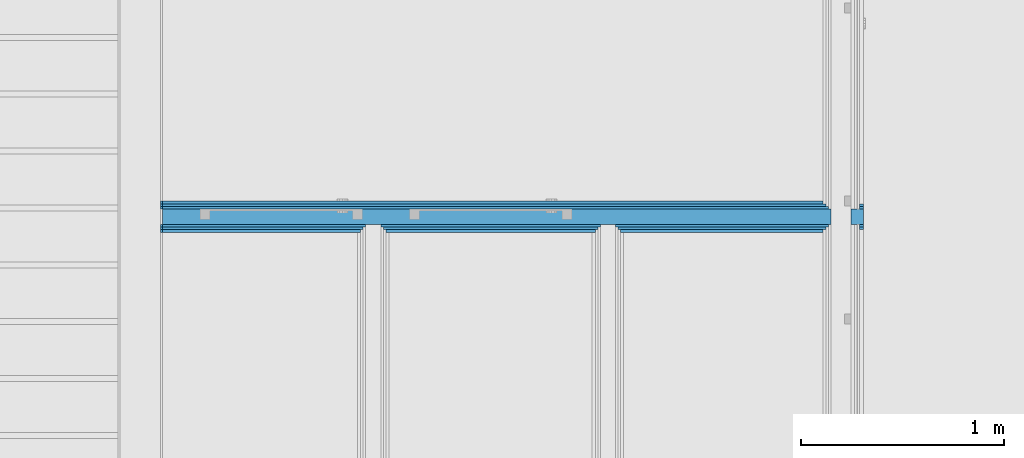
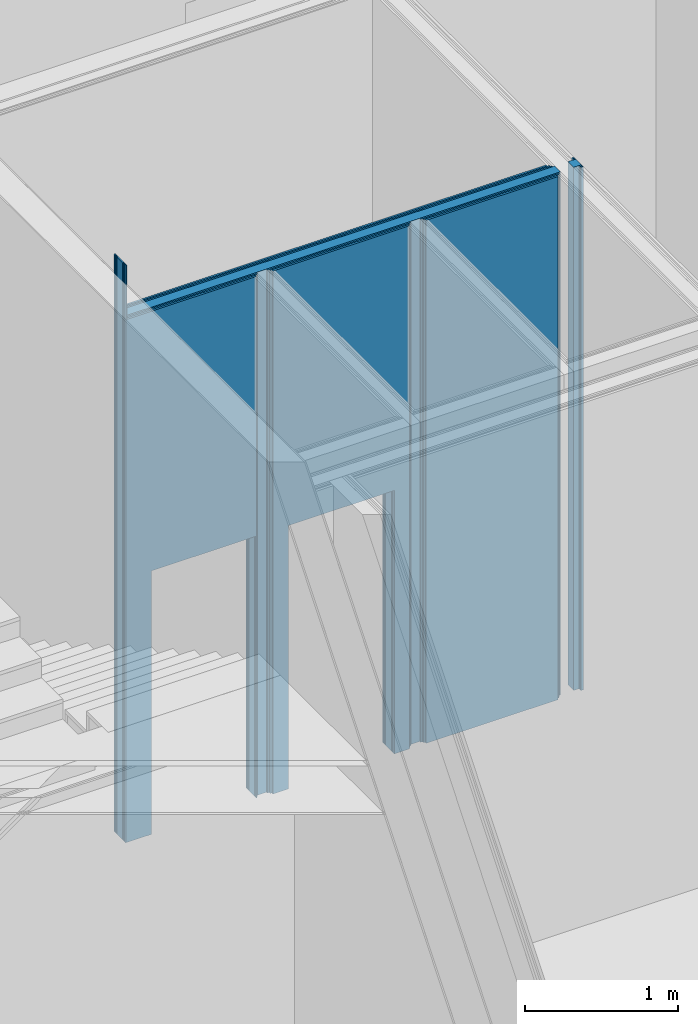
# One storey, part 111 of 260: 7 building element parts, 2 openings, 1 element without a shape of its own.
"""IFC2X3 building model written with IfcOpenShell, lengths in millimetres."""

from ifc_helpers import new_model, entity, si_unit, converted_unit, derived_unit, money_unit, direction, frame, origin_with_axes, place, context, subcontext, project, spatial, faceted_brep, material, type_object, element, aggregate, save


model = new_model("IFC2X3")

# Units and contexts
model_context = context("Model", 3, precision=0.01, world=origin_with_axes(), true_north=direction((0.0, 1.0)))
body_context = subcontext(model_context, "Body", "Model", "MODEL_VIEW")
ifc_project = project(units=[si_unit("LENGTHUNIT", "METRE", prefix="MILLI"), si_unit("AREAUNIT", "SQUARE_METRE"), si_unit("VOLUMEUNIT", "CUBIC_METRE"), converted_unit("PLANEANGLEUNIT", "DEGREE", entity("IfcPlaneAngleMeasure", 0.0174532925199), si_unit("PLANEANGLEUNIT", "RADIAN"), dimensions=[0, 0, 0, 0, 0, 0, 0]), money_unit("EUR"), converted_unit("TIMEUNIT", "Year", entity("IfcTimeMeasure", 31556926.0), si_unit("TIMEUNIT", "SECOND"), dimensions=[0, 0, 1, 0, 0, 0, 0]), si_unit("MASSUNIT", "GRAM", prefix="KILO"), si_unit("THERMODYNAMICTEMPERATUREUNIT", "DEGREE_CELSIUS"), si_unit("LUMINOUSINTENSITYUNIT", "LUMEN"), si_unit("ENERGYUNIT", "JOULE", prefix="MEGA"), derived_unit("THERMALCONDUCTANCEUNIT", [(si_unit("POWERUNIT", "WATT"), 1), (si_unit("LENGTHUNIT", "METRE"), -1), (si_unit("THERMODYNAMICTEMPERATUREUNIT", "KELVIN"), -1)]), derived_unit("SPECIFICHEATCAPACITYUNIT", [(si_unit("ENERGYUNIT", "JOULE"), 1), (si_unit("MASSUNIT", "GRAM", prefix="KILO"), -1), (si_unit("THERMODYNAMICTEMPERATUREUNIT", "KELVIN"), -1)]), derived_unit("MASSDENSITYUNIT", [(si_unit("MASSUNIT", "GRAM", prefix="KILO"), 1), (si_unit("VOLUMEUNIT", "CUBIC_METRE"), -1)])], contexts=[model_context])

# Site, building, storey
site_placement = place(None, origin_with_axes())
site = spatial("IfcSite", under=ifc_project, at=site_placement, Name="Kolde pst 67a", CompositionType="ELEMENT")
building_placement = place(site_placement, origin_with_axes())
building = spatial("IfcBuilding", under=site, at=building_placement, Name="Riigigümnaasium", CompositionType="ELEMENT")
storey_placement = place(building_placement, origin_with_axes())
storey = spatial("IfcBuildingStorey", under=building, at=storey_placement, Name="1. korrus", CompositionType="ELEMENT", Elevation=0.0)

# Wall, openings, building element parts
wall_type = type_object("IfcWallType", Name="SS-MK-7,5/1_plaaditud 155", PredefinedType="NOTDEFINED")
wall_placement = place(storey_placement, frame((6699.99873186, 54114.0154098, 0.0), z_axis=(0.0, 0.0, 1.0), x_axis=(-1.0, 0.0, 0.0)))
wall = element("IfcWall", 1, at=wall_placement, inside=storey, type_object=wall_type, Name="Sisesein")
opening_1_placement = place(wall_placement, frame((2865.53333333, 0.0, 0.0), z_axis=(0.0, 0.0, 1.0), x_axis=(1.0, 0.0, 0.0)))
element("IfcOpeningElement", 2, at=opening_1_placement, cuts=wall, Name="Siseuks", context=body_context, shape_type="Brep", body=[
    faceted_brep([(400.0, -310.0, 2100.0), (400.0, -310.0, 0.0), (400.0, 155.0, 0.0), (400.0, 155.0, 2100.0), (-400.0, -310.0, 2100.0), (-400.0, -310.0, 0.0), (-400.0, 155.0, 0.0), (-400.0, 155.0, 2100.0)], [[[0, 1, 2, 3]], [[0, 4, 5, 1]], [[1, 5, 6, 2]], [[3, 2, 6, 7]], [[4, 0, 3, 7]], [[5, 4, 7, 6]]]),
])
opening_2_placement = place(wall_placement, frame((1834.92914531, 0.0, 0.0), z_axis=(0.0, 0.0, 1.0), x_axis=(1.0, 0.0, 0.0)))
element("IfcOpeningElement", 3, at=opening_2_placement, cuts=wall, Name="Siseuks", context=body_context, shape_type="Brep", body=[
    faceted_brep([(400.0, -310.0, 2100.0), (400.0, -310.0, 0.0), (400.0, 155.0, 0.0), (400.0, 155.0, 2100.0), (-400.0, -310.0, 2100.0), (-400.0, -310.0, 0.0), (-400.0, 155.0, 0.0), (-400.0, 155.0, 2100.0)], [[[0, 1, 2, 3]], [[0, 4, 5, 1]], [[1, 5, 6, 2]], [[3, 2, 6, 7]], [[4, 0, 3, 7]], [[5, 4, 7, 6]]]),
])
ifc_material_1 = material(Name="_VIIMISTLUSKIHT - viimistlus vastavalt SA osale")
building_element_part_1_placement = place(wall_placement, origin_with_axes())
building_element_part_1 = element("IfcBuildingElementPart", 4, at=building_element_part_1_placement, material=ifc_material_1, Name="_VIIMISTLUSKIHT - viimistlus vastavalt SA osale", context=body_context, shape_type="Brep", body=[
    faceted_brep([(1195.06666667, -15.0, 4170.0), (200.0, -15.0, 4170.0), (200.0, -15.0, 0.0), (1195.06666667, -15.0, 0.0), (200.0, 0.0, 4170.0), (1195.06666667, 0.0, 4170.0), (200.0, 0.0, 0.0), (1195.06666667, 0.0, 0.0)], [[[0, 1, 2, 3]], [[4, 1, 0, 5]], [[1, 4, 6, 2]], [[3, 2, 6, 7]], [[5, 0, 3, 7]], [[4, 5, 7, 6]]]),
    faceted_brep([(2234.92914531, -15.0, 2100.0), (2234.92914531, -15.0, 0.0), (2350.53333333, -15.0, 0.0), (2350.53333333, -15.0, 4170.0), (1320.06666667, -15.0, 4170.0), (1320.06666667, -15.0, 0.0), (1434.92914531, -15.0, 0.0), (1434.92914531, -15.0, 2100.0), (2234.92914531, 0.0, 2100.0), (2234.92914531, 0.0, 0.0), (2350.53333333, 0.0, 0.0), (2350.53333333, 0.0, 4170.0), (1320.06666667, 0.0, 4170.0), (1320.06666667, 0.0, 0.0), (1434.92914531, 0.0, 0.0), (1434.92914531, 0.0, 2100.0)], [[[0, 1, 2, 3, 4, 5, 6, 7]], [[1, 0, 8, 9]], [[1, 9, 10, 2]], [[3, 2, 10, 11]], [[4, 3, 11, 12]], [[12, 13, 5, 4]], [[14, 6, 5, 13]], [[7, 6, 14, 15]], [[0, 7, 15, 8]], [[15, 14, 13, 12, 11, 10, 9, 8]]]),
    faceted_brep([(2475.53333333, 0.0, 2100.0), (2475.53333333, -15.0, 2100.0), (2475.53333333, -15.0, 4170.0), (2475.53333333, 0.0, 4170.0), (3265.53333333, -15.0, 2100.0), (3265.53333333, 0.0, 2100.0), (3265.53333333, -15.0, 0.0), (3460.05833606, -15.0, 0.0), (3460.05833606, -15.0, 4600.0), (3450.05831118, -15.0, 4600.0), (3450.05831118, -15.0, 4170.0), (3450.05831119, 0.0, 4170.0), (3450.05831119, 0.0, 4600.0), (3460.05833606, 0.0, 4600.0), (3460.05833606, 0.0, 0.0), (3265.53333333, 0.0, 0.0)], [[[0, 1, 2, 3]], [[4, 1, 0, 5]], [[4, 6, 7, 8, 9, 10, 2, 1]], [[2, 10, 11, 3]], [[5, 0, 3, 11, 12, 13, 14, 15]], [[6, 4, 5, 15]], [[6, 15, 14, 7]], [[8, 7, 14, 13]], [[9, 8, 13, 12]], [[10, 9, 12, 11]]]),
])
ifc_material_2 = material(Name="_PLAATMATERJAL - kipsplaat veekindel")
building_element_part_2_placement = place(wall_placement, origin_with_axes())
building_element_part_2 = element("IfcBuildingElementPart", 5, at=building_element_part_2_placement, material=ifc_material_2, Name="_PLAATMATERJAL - kipsplaat veekindel", context=body_context, shape_type="Brep", body=[
    faceted_brep([(1207.56666667, -27.5, 4170.0), (185.0, -27.5, 4170.0), (185.0, -27.5, 0.0), (1207.56666667, -27.5, 0.0), (185.0, -15.0, 4170.0), (1207.56666667, -15.0, 4170.0), (185.0, -15.0, 0.0), (1207.56666667, -15.0, 0.0)], [[[0, 1, 2, 3]], [[4, 1, 0, 5]], [[1, 4, 6, 2]], [[3, 2, 6, 7]], [[5, 0, 3, 7]], [[4, 5, 7, 6]]]),
    faceted_brep([(2234.92914531, -27.5, 2100.0), (2234.92914531, -27.5, 0.0), (2363.03333333, -27.5, 0.0), (2363.03333333, -27.5, 4170.0), (1307.56666667, -27.5, 4170.0), (1307.56666667, -27.5, 0.0), (1434.92914531, -27.5, 0.0), (1434.92914531, -27.5, 2100.0), (2234.92914531, -15.0, 2100.0), (2234.92914531, -15.0, 0.0), (2363.03333333, -15.0, 0.0), (2363.03333333, -15.0, 4170.0), (1307.56666667, -15.0, 4170.0), (1307.56666667, -15.0, 0.0), (1434.92914531, -15.0, 0.0), (1434.92914531, -15.0, 2100.0)], [[[0, 1, 2, 3, 4, 5, 6, 7]], [[1, 0, 8, 9]], [[1, 9, 10, 2]], [[3, 2, 10, 11]], [[4, 3, 11, 12]], [[12, 13, 5, 4]], [[14, 6, 5, 13]], [[7, 6, 14, 15]], [[0, 7, 15, 8]], [[15, 14, 13, 12, 11, 10, 9, 8]]]),
    faceted_brep([(3265.53333333, -27.5, 2100.0), (3265.53333333, -27.5, 0.0), (3460.05833606, -27.5, 0.0), (3460.05833606, -27.5, 4600.0), (3450.05831117, -27.5, 4600.0), (3450.05831117, -27.5, 4170.0), (2463.03333333, -27.5, 4170.0), (2463.03333333, -27.5, 0.0), (2465.53333333, -27.5, 0.0), (2465.53333333, -27.5, 2100.0), (3265.53333333, -15.0, 2100.0), (3265.53333333, -15.0, 0.0), (3460.05833606, -15.0, 0.0), (3460.05833606, -15.0, 4600.0), (3450.05831118, -15.0, 4600.0), (3450.05831118, -15.0, 4170.0), (2463.03333333, -15.0, 4170.0), (2463.03333333, -15.0, 0.0), (2465.53333333, -15.0, 0.0), (2465.53333333, -15.0, 2100.0)], [[[0, 1, 2, 3, 4, 5, 6, 7, 8, 9]], [[1, 0, 10, 11]], [[1, 11, 12, 2]], [[3, 2, 12, 13]], [[4, 3, 13, 14]], [[5, 4, 14, 15]], [[6, 5, 15, 16]], [[16, 17, 7, 6]], [[18, 8, 7, 17]], [[9, 8, 18, 19]], [[0, 9, 19, 10]], [[19, 18, 17, 16, 15, 14, 13, 12, 11, 10]]]),
    faceted_brep([(20.0, -27.5, 4170.0), (0.0, -27.5, 4170.0), (0.0, -27.5, 0.0), (20.0, -27.5, 0.0), (0.0, -15.0, 4170.0), (20.0, -15.0, 4170.0), (0.0, -15.0, 0.0), (20.0, -15.0, 0.0)], [[[0, 1, 2, 3]], [[4, 1, 0, 5]], [[1, 4, 6, 2]], [[6, 7, 3, 2]], [[5, 0, 3, 7]], [[4, 5, 7, 6]]]),
])
building_element_part_3_placement = place(wall_placement, origin_with_axes())
building_element_part_3 = element("IfcBuildingElementPart", 6, at=building_element_part_3_placement, material=ifc_material_2, Name="_PLAATMATERJAL - kipsplaat veekindel", context=body_context, shape_type="Brep", body=[
    faceted_brep([(1220.06666667, -40.0, 4170.0), (172.5, -40.0, 4170.0), (172.5, -40.0, 0.0), (1220.06666667, -40.0, 0.0), (172.5, -27.5, 4170.0), (1220.06666667, -27.5, 4170.0), (172.5, -27.5, 0.0), (1220.06666667, -27.5, 0.0)], [[[0, 1, 2, 3]], [[4, 1, 0, 5]], [[1, 4, 6, 2]], [[3, 2, 6, 7]], [[5, 0, 3, 7]], [[4, 5, 7, 6]]]),
    faceted_brep([(2234.92914531, -40.0, 2100.0), (2234.92914531, -40.0, 0.0), (2375.53333333, -40.0, 0.0), (2375.53333333, -40.0, 4170.0), (1295.06666667, -40.0, 4170.0), (1295.06666667, -40.0, 0.0), (1434.92914531, -40.0, 0.0), (1434.92914531, -40.0, 2100.0), (2234.92914531, -27.5, 2100.0), (2234.92914531, -27.5, 0.0), (2375.53333333, -27.5, 0.0), (2375.53333333, -27.5, 4170.0), (1295.06666667, -27.5, 4170.0), (1295.06666667, -27.5, 0.0), (1434.92914531, -27.5, 0.0), (1434.92914531, -27.5, 2100.0)], [[[0, 1, 2, 3, 4, 5, 6, 7]], [[1, 0, 8, 9]], [[1, 9, 10, 2]], [[3, 2, 10, 11]], [[4, 3, 11, 12]], [[12, 13, 5, 4]], [[14, 6, 5, 13]], [[7, 6, 14, 15]], [[0, 7, 15, 8]], [[15, 14, 13, 12, 11, 10, 9, 8]]]),
    faceted_brep([(3265.53333333, -40.0, 2100.0), (3265.53333333, -40.0, 0.0), (3460.05833606, -40.0, 0.0), (3460.05833606, -40.0, 4600.0), (3450.05831116, -40.0, 4600.0), (3450.05831116, -40.0, 4170.0), (2450.53333333, -40.0, 4170.0), (2450.53333333, -40.0, 0.0), (2465.53333333, -40.0, 0.0), (2465.53333333, -40.0, 2100.0), (3265.53333333, -27.5, 2100.0), (3265.53333333, -27.5, 0.0), (3460.05833606, -27.5, 0.0), (3460.05833606, -27.5, 4600.0), (3450.05831117, -27.5, 4600.0), (3450.05831117, -27.5, 4170.0), (2450.53333333, -27.5, 4170.0), (2450.53333333, -27.5, 0.0), (2465.53333333, -27.5, 0.0), (2465.53333333, -27.5, 2100.0)], [[[0, 1, 2, 3, 4, 5, 6, 7, 8, 9]], [[1, 0, 10, 11]], [[1, 11, 12, 2]], [[3, 2, 12, 13]], [[4, 3, 13, 14]], [[5, 4, 14, 15]], [[6, 5, 15, 16]], [[16, 17, 7, 6]], [[18, 8, 7, 17]], [[9, 8, 18, 19]], [[0, 9, 19, 10]], [[19, 18, 17, 16, 15, 14, 13, 12, 11, 10]]]),
    faceted_brep([(20.0, -40.0, 4170.0), (0.0, -40.0, 4170.0), (0.0, -40.0, 0.0), (20.0, -40.0, 0.0), (0.0, -27.5, 4170.0), (20.0, -27.5, 4170.0), (0.0, -27.5, 0.0), (20.0, -27.5, 0.0)], [[[0, 1, 2, 3]], [[4, 1, 0, 5]], [[1, 4, 6, 2]], [[6, 7, 3, 2]], [[5, 0, 3, 7]], [[4, 5, 7, 6]]]),
])
ifc_material_3 = material(Name="_KARKASS - metallkarkass CW 75/50, mineraalvill karkassi vahel")
building_element_part_4_placement = place(wall_placement, origin_with_axes())
building_element_part_4 = element("IfcBuildingElementPart", 7, at=building_element_part_4_placement, material=ifc_material_3, Name="_KARKASS - metallkarkass CW 75/50, mineraalvill karkassi vahel", context=body_context, shape_type="Brep", body=[
    faceted_brep([(2234.92914531, -115.0, 2100.0), (2234.92914531, -115.0, 0.0), (2465.53333333, -115.0, 0.0), (2465.53333333, -115.0, 2100.0), (3265.53333333, -115.0, 2100.0), (3265.53333333, -115.0, 0.0), (3460.05833606, -115.0, 0.0), (3460.05833606, -115.0, 4600.0), (3450.05831112, -115.0, 4600.0), (3450.05831112, -115.0, 4170.0), (160.0, -115.0, 4170.0), (160.0, -115.0, 0.0), (1434.92914531, -115.0, 0.0), (1434.92914531, -115.0, 2100.0), (2234.92914531, -40.0, 2100.0), (2234.92914531, -40.0, 0.0), (2465.53333333, -40.0, 0.0), (2465.53333333, -40.0, 2100.0), (3265.53333333, -40.0, 2100.0), (3265.53333333, -40.0, 0.0), (3460.05833606, -40.0, 0.0), (3460.05833606, -40.0, 4600.0), (3450.05831116, -40.0, 4600.0), (3450.05831116, -40.0, 4170.0), (160.0, -40.0, 4170.0), (160.0, -40.0, 0.0), (1434.92914531, -40.0, 0.0), (1434.92914531, -40.0, 2100.0)], [[[0, 1, 2, 3, 4, 5, 6, 7, 8, 9, 10, 11, 12, 13]], [[1, 0, 14, 15]], [[1, 15, 16, 2]], [[2, 16, 17, 3]], [[3, 17, 18, 4]], [[4, 18, 19, 5]], [[19, 20, 6, 5]], [[7, 6, 20, 21]], [[7, 21, 22, 8]], [[8, 22, 23, 9]], [[9, 23, 24, 10]], [[25, 11, 10, 24]], [[26, 12, 11, 25]], [[13, 12, 26, 27]], [[0, 13, 27, 14]], [[27, 26, 25, 24, 23, 22, 21, 20, 19, 18, 17, 16, 15, 14]]]),
    faceted_brep([(60.0, -115.0, 4170.0), (0.0, -115.0, 4170.0), (0.0, -115.0, 0.0), (60.0, -115.0, 0.0), (0.0, -40.0, 4170.0), (60.0, -40.0, 4170.0), (0.0, -40.0, 0.0), (60.0, -40.0, 0.0)], [[[0, 1, 2, 3]], [[4, 1, 0, 5]], [[1, 4, 6, 2]], [[6, 7, 3, 2]], [[5, 0, 3, 7]], [[4, 5, 7, 6]]]),
])
building_element_part_5_placement = place(wall_placement, origin_with_axes())
building_element_part_5 = element("IfcBuildingElementPart", 8, at=building_element_part_5_placement, material=ifc_material_2, Name="_PLAATMATERJAL - kipsplaat veekindel", context=body_context, shape_type="Brep", body=[
    faceted_brep([(2234.92914531, -127.5, 2100.0), (2234.92914531, -127.5, 0.0), (2465.53333333, -127.5, 0.0), (2465.53333333, -127.5, 2100.0), (3265.53333333, -127.5, 2100.0), (3265.53333333, -127.5, 0.0), (3460.05833606, -127.5, 0.0), (3460.05833606, -127.5, 4600.0), (3450.05831111, -127.5, 4600.0), (3450.05831111, -127.5, 4170.0), (172.5, -127.5, 4170.0), (172.5, -127.5, 0.0), (1434.92914531, -127.5, 0.0), (1434.92914531, -127.5, 2100.0), (2234.92914531, -115.0, 2100.0), (2234.92914531, -115.0, 0.0), (2465.53333333, -115.0, 0.0), (2465.53333333, -115.0, 2100.0), (3265.53333333, -115.0, 2100.0), (3265.53333333, -115.0, 0.0), (3460.05833606, -115.0, 0.0), (3460.05833606, -115.0, 4600.0), (3450.05831112, -115.0, 4600.0), (3450.05831112, -115.0, 4170.0), (172.5, -115.0, 4170.0), (172.5, -115.0, 0.0), (1434.92914531, -115.0, 0.0), (1434.92914531, -115.0, 2100.0)], [[[0, 1, 2, 3, 4, 5, 6, 7, 8, 9, 10, 11, 12, 13]], [[1, 0, 14, 15]], [[1, 15, 16, 2]], [[2, 16, 17, 3]], [[3, 17, 18, 4]], [[4, 18, 19, 5]], [[19, 20, 6, 5]], [[7, 6, 20, 21]], [[7, 21, 22, 8]], [[8, 22, 23, 9]], [[9, 23, 24, 10]], [[25, 11, 10, 24]], [[26, 12, 11, 25]], [[13, 12, 26, 27]], [[0, 13, 27, 14]], [[27, 26, 25, 24, 23, 22, 21, 20, 19, 18, 17, 16, 15, 14]]]),
    faceted_brep([(20.0, -127.5, 4170.0), (0.0, -127.5, 4170.0), (0.0, -127.5, 0.0), (20.0, -127.5, 0.0), (0.0, -115.0, 4170.0), (20.0, -115.0, 4170.0), (0.0, -115.0, 0.0), (20.0, -115.0, 0.0)], [[[0, 1, 2, 3]], [[4, 1, 0, 5]], [[1, 4, 6, 2]], [[6, 7, 3, 2]], [[5, 0, 3, 7]], [[4, 5, 7, 6]]]),
])
building_element_part_6_placement = place(wall_placement, origin_with_axes())
building_element_part_6 = element("IfcBuildingElementPart", 9, at=building_element_part_6_placement, material=ifc_material_2, Name="_PLAATMATERJAL - kipsplaat veekindel", context=body_context, shape_type="Brep", body=[
    faceted_brep([(2234.92914531, -140.0, 2100.0), (2234.92914531, -140.0, 0.0), (2465.53333333, -140.0, 0.0), (2465.53333333, -140.0, 2100.0), (3265.53333333, -140.0, 2100.0), (3265.53333333, -140.0, 0.0), (3460.05833606, -140.0, 0.0), (3460.05833606, -140.0, 4600.0), (3450.0583111, -140.0, 4600.0), (3450.0583111, -140.0, 4170.0), (185.0, -140.0, 4170.0), (185.0, -140.0, 0.0), (1434.92914531, -140.0, 0.0), (1434.92914531, -140.0, 2100.0), (2234.92914531, -127.5, 2100.0), (2234.92914531, -127.5, 0.0), (2465.53333333, -127.5, 0.0), (2465.53333333, -127.5, 2100.0), (3265.53333333, -127.5, 2100.0), (3265.53333333, -127.5, 0.0), (3460.05833606, -127.5, 0.0), (3460.05833606, -127.5, 4600.0), (3450.05831111, -127.5, 4600.0), (3450.05831111, -127.5, 4170.0), (185.0, -127.5, 4170.0), (185.0, -127.5, 0.0), (1434.92914531, -127.5, 0.0), (1434.92914531, -127.5, 2100.0)], [[[0, 1, 2, 3, 4, 5, 6, 7, 8, 9, 10, 11, 12, 13]], [[1, 0, 14, 15]], [[1, 15, 16, 2]], [[2, 16, 17, 3]], [[3, 17, 18, 4]], [[4, 18, 19, 5]], [[19, 20, 6, 5]], [[7, 6, 20, 21]], [[7, 21, 22, 8]], [[8, 22, 23, 9]], [[9, 23, 24, 10]], [[25, 11, 10, 24]], [[26, 12, 11, 25]], [[13, 12, 26, 27]], [[0, 13, 27, 14]], [[27, 26, 25, 24, 23, 22, 21, 20, 19, 18, 17, 16, 15, 14]]]),
    faceted_brep([(20.0, -140.0, 4170.0), (0.0, -140.0, 4170.0), (0.0, -140.0, 0.0), (20.0, -140.0, 0.0), (0.0, -127.5, 4170.0), (20.0, -127.5, 4170.0), (0.0, -127.5, 0.0), (20.0, -127.5, 0.0)], [[[0, 1, 2, 3]], [[4, 1, 0, 5]], [[1, 4, 6, 2]], [[6, 7, 3, 2]], [[5, 0, 3, 7]], [[4, 5, 7, 6]]]),
])
building_element_part_7_placement = place(wall_placement, origin_with_axes())
building_element_part_7 = element("IfcBuildingElementPart", 10, at=building_element_part_7_placement, material=ifc_material_1, Name="_VIIMISTLUSKIHT - viimistlus vastavalt SA osale", context=body_context, shape_type="Brep", body=[
    faceted_brep([(2234.92914531, -155.0, 2100.0), (2234.92914531, -155.0, 0.0), (2465.53333333, -155.0, 0.0), (2465.53333333, -155.0, 2100.0), (3265.53333333, -155.0, 2100.0), (3265.53333333, -155.0, 0.0), (3460.05833606, -155.0, 0.0), (3460.05833606, -155.0, 4600.0), (3450.05831109, -155.0, 4600.0), (3450.05831109, -155.0, 4170.0), (200.0, -155.0, 4170.0), (200.0, -155.0, 0.0), (1434.92914531, -155.0, 0.0), (1434.92914531, -155.0, 2100.0), (2234.92914531, -140.0, 2100.0), (2234.92914531, -140.0, 0.0), (2465.53333333, -140.0, 0.0), (2465.53333333, -140.0, 2100.0), (3265.53333333, -140.0, 2100.0), (3265.53333333, -140.0, 0.0), (3460.05833606, -140.0, 0.0), (3460.05833606, -140.0, 4600.0), (3450.0583111, -140.0, 4600.0), (3450.0583111, -140.0, 4170.0), (200.0, -140.0, 4170.0), (200.0, -140.0, 0.0), (1434.92914531, -140.0, 0.0), (1434.92914531, -140.0, 2100.0)], [[[0, 1, 2, 3, 4, 5, 6, 7, 8, 9, 10, 11, 12, 13]], [[1, 0, 14, 15]], [[1, 15, 16, 2]], [[2, 16, 17, 3]], [[3, 17, 18, 4]], [[4, 18, 19, 5]], [[19, 20, 6, 5]], [[7, 6, 20, 21]], [[7, 21, 22, 8]], [[8, 22, 23, 9]], [[9, 23, 24, 10]], [[25, 11, 10, 24]], [[26, 12, 11, 25]], [[13, 12, 26, 27]], [[0, 13, 27, 14]], [[27, 26, 25, 24, 23, 22, 21, 20, 19, 18, 17, 16, 15, 14]]]),
])
aggregate(wall, [building_element_part_1, building_element_part_2, building_element_part_3, building_element_part_4, building_element_part_5, building_element_part_6, building_element_part_7])

save(model, "model.ifc")
